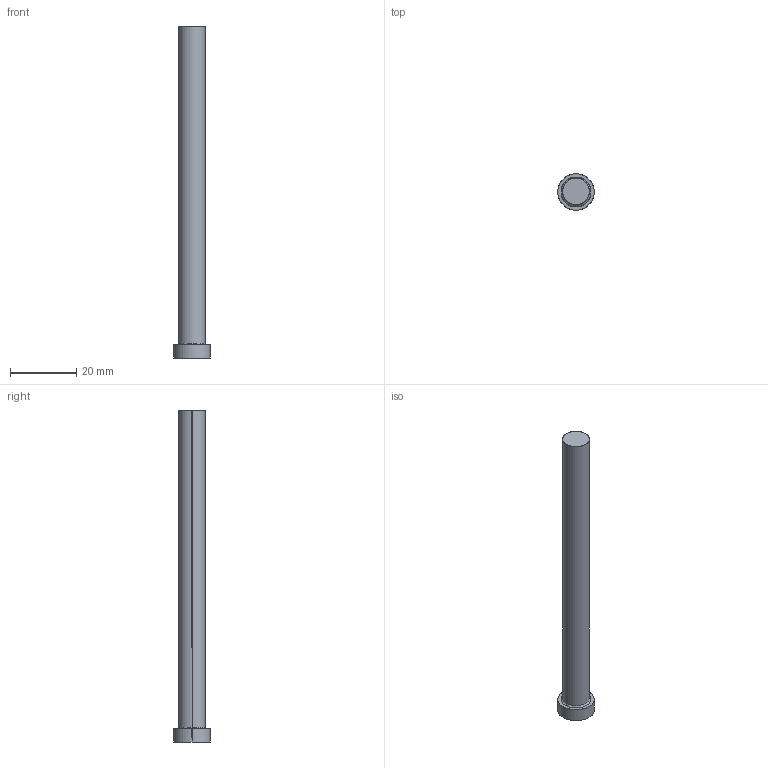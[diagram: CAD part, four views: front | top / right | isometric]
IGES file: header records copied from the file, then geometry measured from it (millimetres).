
Start section: SolidWorks IGES file using analytic representation for surfaces
Global section: file name: D:\Current\W1-2\EPH\EPH8-100.igs; native system: SolidWorks 2017; preprocessor: SolidWorks 2017; author: Ravi Kalvai; date: 240411.171509; units: millimetre
Bounding box: 11 x 11 x 100 mm (x, y, z)
Surface area: 2735.8 mm2 (no closed solid volume)
Topology: 0 solids, 0 shells, 9 faces, 152 edges, 152 vertices
Faces by surface type: bspline 5, revolution 4
